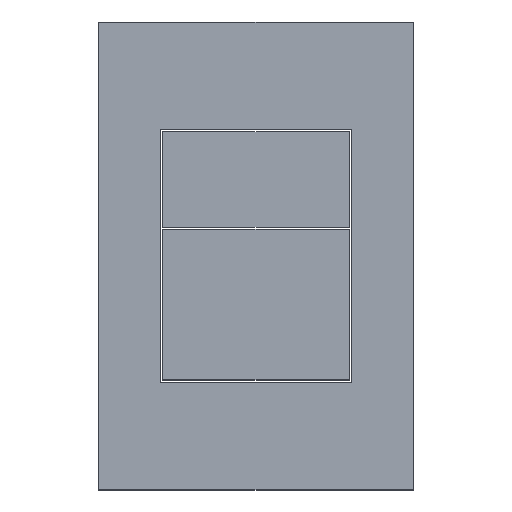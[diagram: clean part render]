
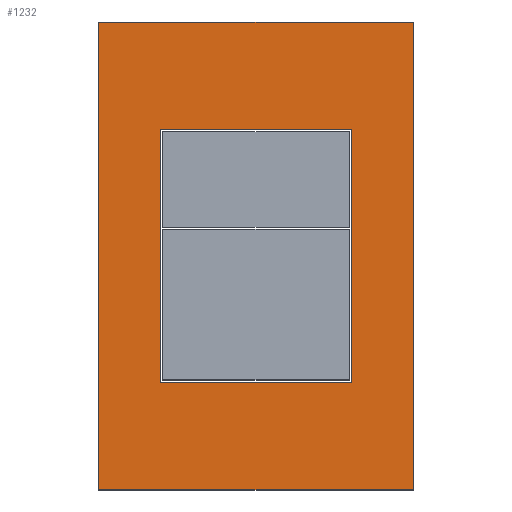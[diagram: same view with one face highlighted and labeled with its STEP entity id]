
A CAD part, top view. The second image highlights one B-rep face of the part: STEP entity #1232.
In plain terms, the highlighted planar face has unit normal (0, 0, 1).
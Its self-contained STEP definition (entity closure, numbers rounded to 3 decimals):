
#144=CIRCLE('',#1403,0.5);
#145=CIRCLE('',#1404,0.5);
#146=CIRCLE('',#1405,0.5);
#147=CIRCLE('',#1406,0.5);
#384=ORIENTED_EDGE('',*,*,#632,.T.);
#385=ORIENTED_EDGE('',*,*,#633,.T.);
#386=ORIENTED_EDGE('',*,*,#634,.T.);
#387=ORIENTED_EDGE('',*,*,#635,.T.);
#388=ORIENTED_EDGE('',*,*,#636,.T.);
#389=ORIENTED_EDGE('',*,*,#637,.T.);
#390=ORIENTED_EDGE('',*,*,#638,.T.);
#391=ORIENTED_EDGE('',*,*,#639,.T.);
#392=ORIENTED_EDGE('',*,*,#640,.T.);
#393=ORIENTED_EDGE('',*,*,#641,.T.);
#394=ORIENTED_EDGE('',*,*,#642,.T.);
#395=ORIENTED_EDGE('',*,*,#643,.T.);
#632=EDGE_CURVE('',#760,#761,#860,.T.);
#633=EDGE_CURVE('',#761,#762,#861,.T.);
#634=EDGE_CURVE('',#762,#763,#862,.T.);
#635=EDGE_CURVE('',#763,#760,#863,.T.);
#636=EDGE_CURVE('',#764,#765,#864,.F.);
#637=EDGE_CURVE('',#765,#766,#144,.F.);
#638=EDGE_CURVE('',#766,#767,#865,.F.);
#639=EDGE_CURVE('',#767,#768,#145,.F.);
#640=EDGE_CURVE('',#768,#769,#866,.F.);
#641=EDGE_CURVE('',#769,#770,#146,.F.);
#642=EDGE_CURVE('',#770,#771,#867,.F.);
#643=EDGE_CURVE('',#771,#764,#147,.F.);
#760=VERTEX_POINT('',#2130);
#761=VERTEX_POINT('',#2131);
#762=VERTEX_POINT('',#2133);
#763=VERTEX_POINT('',#2135);
#764=VERTEX_POINT('',#2138);
#765=VERTEX_POINT('',#2139);
#766=VERTEX_POINT('',#2141);
#767=VERTEX_POINT('',#2143);
#768=VERTEX_POINT('',#2145);
#769=VERTEX_POINT('',#2147);
#770=VERTEX_POINT('',#2149);
#771=VERTEX_POINT('',#2151);
#860=LINE('',#2129,#956);
#861=LINE('',#2132,#957);
#862=LINE('',#2134,#958);
#863=LINE('',#2136,#959);
#864=LINE('',#2137,#960);
#865=LINE('',#2142,#961);
#866=LINE('',#2146,#962);
#867=LINE('',#2150,#963);
#956=VECTOR('',#1732,1000.);
#957=VECTOR('',#1733,1000.);
#958=VECTOR('',#1734,1000.);
#959=VECTOR('',#1735,1000.);
#960=VECTOR('',#1736,1000.);
#961=VECTOR('',#1739,1000.);
#962=VECTOR('',#1742,1000.);
#963=VECTOR('',#1745,1000.);
#1034=EDGE_LOOP('',(#384,#385,#386,#387));
#1035=EDGE_LOOP('',(#388,#389,#390,#391,#392,#393,#394,#395));
#1120=FACE_BOUND('',#1034,.T.);
#1121=FACE_BOUND('',#1035,.T.);
#1177=PLANE('',#1402);
#1232=ADVANCED_FACE('',(#1120,#1121),#1177,.T.);
#1402=AXIS2_PLACEMENT_3D('',#2128,#1730,#1731);
#1403=AXIS2_PLACEMENT_3D('',#2140,#1737,#1738);
#1404=AXIS2_PLACEMENT_3D('',#2144,#1740,#1741);
#1405=AXIS2_PLACEMENT_3D('',#2148,#1743,#1744);
#1406=AXIS2_PLACEMENT_3D('',#2152,#1746,#1747);
#1730=DIRECTION('',(0.,0.,1.));
#1731=DIRECTION('',(0.,-1.,0.));
#1732=DIRECTION('',(-1.,0.,0.));
#1733=DIRECTION('',(0.,-1.,0.));
#1734=DIRECTION('',(1.,0.,0.));
#1735=DIRECTION('',(0.,1.,0.));
#1736=DIRECTION('',(1.,0.,0.));
#1737=DIRECTION('',(0.,0.,1.));
#1738=DIRECTION('',(1.,0.,0.));
#1739=DIRECTION('',(0.,-1.,0.));
#1740=DIRECTION('',(0.,0.,1.));
#1741=DIRECTION('',(1.,0.,0.));
#1742=DIRECTION('',(-1.,0.,0.));
#1743=DIRECTION('',(0.,0.,1.));
#1744=DIRECTION('',(1.,0.,0.));
#1745=DIRECTION('',(0.,1.,0.));
#1746=DIRECTION('',(0.,0.,1.));
#1747=DIRECTION('',(1.,0.,0.));
#2128=CARTESIAN_POINT('',(0.,0.,5.));
#2129=CARTESIAN_POINT('',(0.,122.3,5.));
#2130=CARTESIAN_POINT('',(82.3,122.3,5.));
#2131=CARTESIAN_POINT('',(-82.3,122.3,5.));
#2132=CARTESIAN_POINT('',(-82.3,0.,5.));
#2133=CARTESIAN_POINT('',(-82.3,-122.3,5.));
#2134=CARTESIAN_POINT('',(0.,-122.3,5.));
#2135=CARTESIAN_POINT('',(82.3,-122.3,5.));
#2136=CARTESIAN_POINT('',(82.3,0.,5.));
#2137=CARTESIAN_POINT('',(-49.7,-66.2,5.));
#2138=CARTESIAN_POINT('',(49.7,-66.2,5.));
#2139=CARTESIAN_POINT('',(-49.7,-66.2,5.));
#2140=CARTESIAN_POINT('',(-49.7,-65.7,5.));
#2141=CARTESIAN_POINT('',(-50.2,-65.7,5.));
#2142=CARTESIAN_POINT('',(-50.2,65.7,5.));
#2143=CARTESIAN_POINT('',(-50.2,65.7,5.));
#2144=CARTESIAN_POINT('',(-49.7,65.7,5.));
#2145=CARTESIAN_POINT('',(-49.7,66.2,5.));
#2146=CARTESIAN_POINT('',(49.7,66.2,5.));
#2147=CARTESIAN_POINT('',(49.7,66.2,5.));
#2148=CARTESIAN_POINT('',(49.7,65.7,5.));
#2149=CARTESIAN_POINT('',(50.2,65.7,5.));
#2150=CARTESIAN_POINT('',(50.2,-65.7,5.));
#2151=CARTESIAN_POINT('',(50.2,-65.7,5.));
#2152=CARTESIAN_POINT('',(49.7,-65.7,5.));
